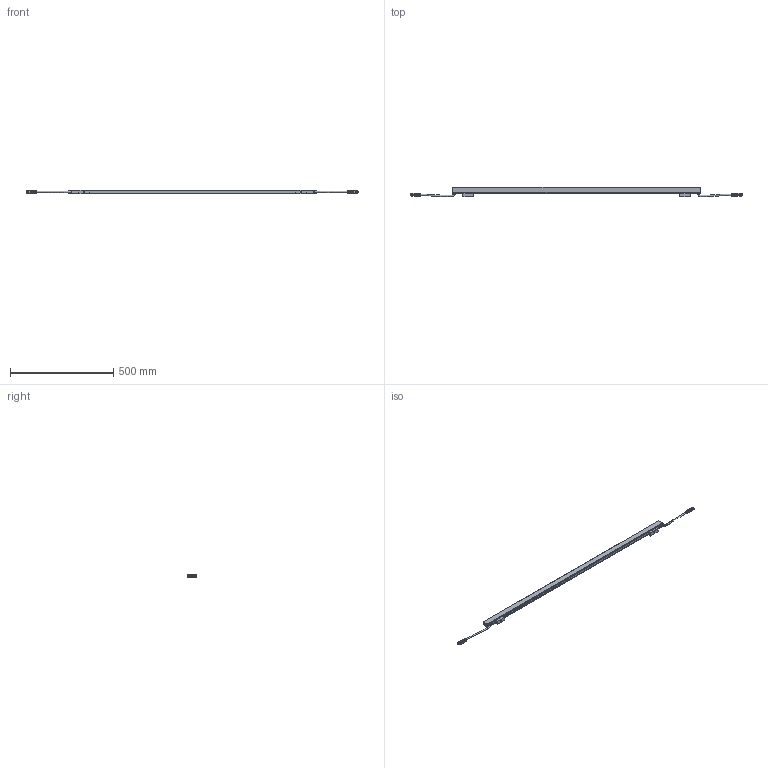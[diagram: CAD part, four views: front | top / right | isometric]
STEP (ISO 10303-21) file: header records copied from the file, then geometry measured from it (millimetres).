
FILE_DESCRIPTION (( 'STEP AP214' ), '1' );
FILE_NAME ('DiGi Linear V-Series L1200 Flat.STEP', '2025-07-22T11:41:04', ( '' ), ( '' ), 'SwSTEP 2.0', 'SolidWorks 2025', '' );
FILE_SCHEMA (( 'AUTOMOTIVE_DESIGN' ));
Length unit declared in the file: millimetre
Products named in the file (7): DiGi Linear V-serie - Body_L1200 Flat; M12 3p Female; DiGi Linear V-serie - Cabling_L1200; Counter sunk screw torx_M2x6; DiGi Linear V-serie - Clip; DiGi Linear V-Series L1200 Flat; M12 3p Male
Assembly tree (10 placements, depth 2):
  DiGi Linear V-Series L1200 Flat
    DiGi Linear V-serie - Body_L1200 Flat
    DiGi Linear V-serie - Clip  x2
    M12 3p Male
    M12 3p Female
    DiGi Linear V-serie - Cabling_L1200
    Counter sunk screw torx_M2x6  x4
Bounding box: 1607.4 x 46 x 18.3 mm (x, y, z)
Volume: 644138.6 mm3; surface area: 159383.3 mm2
Topology: 13 solids, 13 shells, 1281 faces, 3215 edges, 2004 vertices
Faces by surface type: plane 490, cylinder 354, bspline 184, torus 161, cone 80, sphere 12
Full cylindrical faces by diameter (mm): 2 x4, 2.4 x4, 3 x4, 6.5 x6, 9.7 x1, 10 x2, 10.8 x1, 12.3 x1, 14.3 x2
Entity records: 53818 total; most frequent: CARTESIAN_POINT 17185, ORIENTED_EDGE 5798, DIRECTION 4799, EDGE_CURVE 2899, VERTEX_POINT 1820, AXIS2_PLACEMENT_3D 1808, EDGE_LOOP 1277, FACE_OUTER_BOUND 1205
